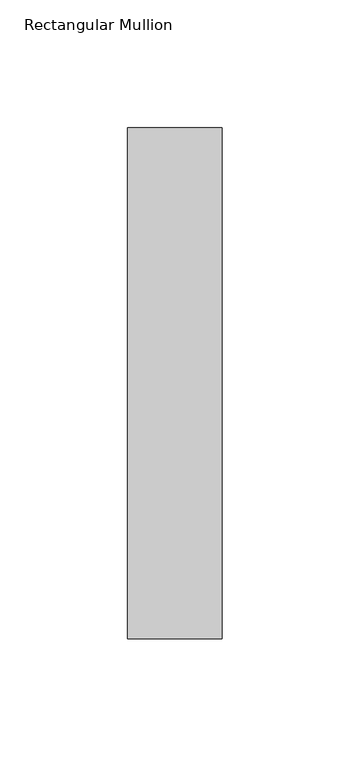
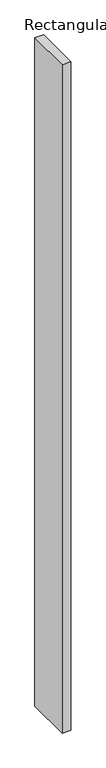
"""IFC4 building model written with IfcOpenShell, lengths in millimetres: member geometry, Rectangular Mullion : RSen_21_CWM_blade - cubic 200 - 0°_gen_duco projects."""

import ifcopenshell
import ifcopenshell.guid

model = None  # the IFC model being written
_history = None  # IfcOwnerHistory: only IFC2X3 demands one
_inside = {}  # id of a spatial element -> (the spatial element, [elements in it])
_under = {}  # id of a project, library or spatial element -> (it, [spatial elements below it])
_declared = {}  # id of a project -> (the project, [libraries it declares])
_typed = {}  # id of a type object -> (the type object, [elements of that type])
_made_of = {}  # id of a material, layer set ... -> (it, [elements and type objects made of it])


def new_model(schema):
    """Start an empty IFC model of exactly this schema.

    Asked for "IFC4X3", IfcOpenShell would pick the latest addendum, in which some entities
    have other attributes; the version numbers below select the first issue.
    IFC2X3 requires an IfcOwnerHistory on every rooted entity: one is made here for all.
    """
    global model, _history
    if schema == "IFC4X3":
        model = ifcopenshell.file(schema_version=(4, 3, 0, 0))
    else:
        model = ifcopenshell.file(schema=schema)
    _inside.clear()
    _under.clear()
    _declared.clear()
    _typed.clear()
    _made_of.clear()
    _history = None
    if model.schema == "IFC2X3":
        org = make("IfcOrganization", Name="unknown")
        user = make(
            "IfcPersonAndOrganization",
            ThePerson=make("IfcPerson", FamilyName="unknown"),
            TheOrganization=org,
        )
        app = make(
            "IfcApplication",
            ApplicationDeveloper=org,
            Version="unknown",
            ApplicationFullName="unknown",
            ApplicationIdentifier="unknown",
        )
        _history = make(
            "IfcOwnerHistory",
            OwningUser=user,
            OwningApplication=app,
            ChangeAction="ADDED",
            CreationDate=0,
        )
    return model


def make(cls, **values):
    """One entity of the class cls with the attributes given. An attribute that is None is left unset."""
    return model.create_entity(
        cls, **{name: value for name, value in values.items() if value is not None}
    )


def rooted(cls, **values):
    """An entity with a GlobalId (a new one), such as an element, a storey or a relation."""
    return make(cls, GlobalId=ifcopenshell.guid.new(), OwnerHistory=_history, **values)


def si_unit(unit_type, name, prefix=None):
    """IfcSIUnit, for example si_unit("LENGTHUNIT", "METRE", prefix="MILLI")."""
    return make("IfcSIUnit", UnitType=unit_type, Prefix=prefix, Name=name)


def assignment(units):
    """IfcUnitAssignment: the units of a project."""
    return None if units is None else make("IfcUnitAssignment", Units=units)


def point(xyz):
    """IfcCartesianPoint."""
    return None if xyz is None else make("IfcCartesianPoint", Coordinates=xyz)


def direction(xyz):
    """IfcDirection."""
    return None if xyz is None else make("IfcDirection", DirectionRatios=xyz)


def frame(location, z_axis=None, x_axis=None):
    """IfcAxis2Placement3D, a coordinate frame: its origin and axes. An axis left out is left unset."""
    return make(
        "IfcAxis2Placement3D",
        Location=point(location),
        Axis=direction(z_axis),
        RefDirection=direction(x_axis),
    )


def origin():
    """The frame at (0, 0, 0) with its axes left unset."""
    return frame((0.0, 0.0, 0.0))


def place(relative_to, where):
    """IfcLocalPlacement: puts the frame where relative to a parent placement (None: the world)."""
    return make(
        "IfcLocalPlacement", PlacementRelTo=relative_to, RelativePlacement=where
    )


def context(
    kind, dimensions, precision=None, world=None, true_north=None, identifier=None
):
    """IfcGeometricRepresentationContext, for example the 3D "Model" context."""
    return make(
        "IfcGeometricRepresentationContext",
        ContextIdentifier=identifier,
        ContextType=kind,
        CoordinateSpaceDimension=dimensions,
        Precision=precision,
        WorldCoordinateSystem=world,
        TrueNorth=true_north,
    )


def project(units=None, contexts=None):
    """IfcProject with its units and contexts."""
    return rooted(
        "IfcProject",
        Name="project",
        RepresentationContexts=contexts,
        UnitsInContext=assignment(units),
    )


def spatial(cls, under=None, at=None, **own):
    """A site, building, storey or space (cls), placed at a placement, below another one or the project."""
    s = rooted(cls, ObjectPlacement=at, **own)
    if under is not None:
        _under.setdefault(under.id(), (under, []))[1].append(s)
    return s


def polyline(points):
    """IfcPolyline through the points."""
    return make("IfcPolyline", Points=[point(p) for p in points])


def outline(outer, holes=None, kind="AREA"):
    """IfcArbitraryClosedProfileDef: a profile drawn as a closed curve; with holes, ...WithVoids."""
    if holes is None:
        return make("IfcArbitraryClosedProfileDef", ProfileType=kind, OuterCurve=outer)
    return make(
        "IfcArbitraryProfileDefWithVoids",
        ProfileType=kind,
        OuterCurve=outer,
        InnerCurves=holes,
    )


def extrude(swept, where, along, depth):
    """IfcExtrudedAreaSolid: the profile swept, set in the frame where, extruded along a direction by depth."""
    return make(
        "IfcExtrudedAreaSolid",
        SweptArea=swept,
        Position=where,
        ExtrudedDirection=direction(along),
        Depth=depth,
    )


def shape(context_of_items, identifier, shape_type, items):
    """IfcShapeRepresentation: the items that make up one representation, for example the "Body"."""
    return make(
        "IfcShapeRepresentation",
        ContextOfItems=context_of_items,
        RepresentationIdentifier=identifier,
        RepresentationType=shape_type,
        Items=items,
    )


def source(mapping_origin, context_of_items, identifier, shape_type, items):
    """IfcRepresentationMap: a shape defined once, which mapped items show again and again."""
    return make(
        "IfcRepresentationMap",
        MappingOrigin=mapping_origin,
        MappedRepresentation=shape(context_of_items, identifier, shape_type, items),
    )


def transform(
    local_origin,
    x_axis=None,
    y_axis=None,
    z_axis=None,
    scale=None,
    scale2=None,
    scale3=None,
    uniform=True,
):
    """IfcCartesianTransformationOperator3D, or its non-uniform kind. x_axis, y_axis, z_axis: its Axis1, 2, 3."""
    if uniform:
        return make(
            "IfcCartesianTransformationOperator3D",
            Axis1=direction(x_axis),
            Axis2=direction(y_axis),
            LocalOrigin=point(local_origin),
            Scale=scale,
            Axis3=direction(z_axis),
        )
    return make(
        "IfcCartesianTransformationOperator3DnonUniform",
        Axis1=direction(x_axis),
        Axis2=direction(y_axis),
        LocalOrigin=point(local_origin),
        Scale=scale,
        Axis3=direction(z_axis),
        Scale2=scale2,
        Scale3=scale3,
    )


def mapped(mapping_source, mapping_target):
    """IfcMappedItem: shows the shape of a source again, moved by a transform."""
    return make(
        "IfcMappedItem", MappingSource=mapping_source, MappingTarget=mapping_target
    )


def made_of(thing, what):
    """Note that an element or type object is made of a material, layer set ...; save() writes the relation."""
    if what is not None:
        _made_of.setdefault(what.id(), (what, []))[1].append(thing)
    return thing


def element(
    cls,
    number,
    at=None,
    inside=None,
    cuts=None,
    type_object=None,
    material=None,
    context=None,
    identifier="Body",
    shape_type=None,
    held_by="IfcProductDefinitionShape",
    body=None,
    shapes=None,
    **own,
):
    """One element of the class cls, such as IfcWall. Its Tag is "e" and its number.

    at: its placement. inside: the storey or other place that contains it. cuts: it is an
    opening in that element (IfcRelVoidsElement). A single representation is given by context,
    identifier, shape_type and body (its items); several are given by shapes. held_by: the class
    of the entity that holds the representations. save() writes the other relations.
    """
    e = rooted(cls, Tag="e%d" % number, ObjectPlacement=at, **own)
    if body is not None:
        shapes = [shape(context, identifier, shape_type, body)]
    if shapes is not None:
        e.Representation = make(held_by, Representations=shapes)
    if inside is not None:
        _inside.setdefault(inside.id(), (inside, []))[1].append(e)
    if cuts is not None:
        rooted(
            "IfcRelVoidsElement", RelatingBuildingElement=cuts, RelatedOpeningElement=e
        )
    if type_object is not None:
        _typed.setdefault(type_object.id(), (type_object, []))[1].append(e)
    return made_of(e, material)


def aggregate(whole, parts):
    """IfcRelAggregates: a whole, such as a stair, and the parts it consists of."""
    return rooted("IfcRelAggregates", RelatingObject=whole, RelatedObjects=parts)


def save(model, path):
    """Write the relations noted so far, then the file.

    IfcRelAggregates (storeys below a building ...), IfcRelContainedInSpatialStructure (elements
    in a storey), IfcRelDefinesByType, IfcRelAssociatesMaterial and IfcRelDeclares: one each for
    every whole, place, type object, material and project.
    """
    for whole, parts in _under.values():
        aggregate(whole, parts)
    for where, things in _inside.values():
        rooted(
            "IfcRelContainedInSpatialStructure",
            RelatedElements=things,
            RelatingStructure=where,
        )
    for kind, things in _typed.values():
        rooted("IfcRelDefinesByType", RelatedObjects=things, RelatingType=kind)
    for what, things in _made_of.values():
        rooted("IfcRelAssociatesMaterial", RelatedObjects=things, RelatingMaterial=what)
    for by, libraries in _declared.values():
        rooted("IfcRelDeclares", RelatingContext=by, RelatedDefinitions=libraries)
    model.write(path)


def rectangular_mullion_20bdfb12(model_context):
    return source(origin(), model_context, "Body", "SweptSolid", [
        extrude(outline(polyline([(-18.5, 8.0), (-18.5, 208.0), (18.5, 208.0), (18.5, 8.0), (-18.5, 8.0)])), frame((0.0, 0.0, -3000.0), z_axis=(0.0, 0.0, 1.0), x_axis=(1.0, 0.0, 0.0)), (0.0, 0.0, 1.0), 3000.0),
    ])


if __name__ == "__main__":
    model = new_model("IFC4")
    model_context = context("Model", 3, world=origin())
    ifc_project = project(units=[si_unit("LENGTHUNIT", "METRE", prefix="MILLI")], contexts=[model_context])
    site = spatial("IfcSite", under=ifc_project)
    building = spatial("IfcBuilding", under=site)
    placement = place(None, origin())
    rectangular_mullion_shape = rectangular_mullion_20bdfb12(model_context)
    element("IfcMember", 1, ObjectType="Rectangular Mullion : RSen_21_CWM_blade - cubic 200 - 0°_gen_duco projects", at=placement, inside=building, context=model_context, shape_type="MappedRepresentation", body=[
        mapped(rectangular_mullion_shape, transform((0.0, 0.0, 0.0), x_axis=(1.0, 0.0, 0.0), y_axis=(0.0, 1.0, 0.0), z_axis=(0.0, 0.0, 1.0))),
    ])
    save(model, "model.ifc")
